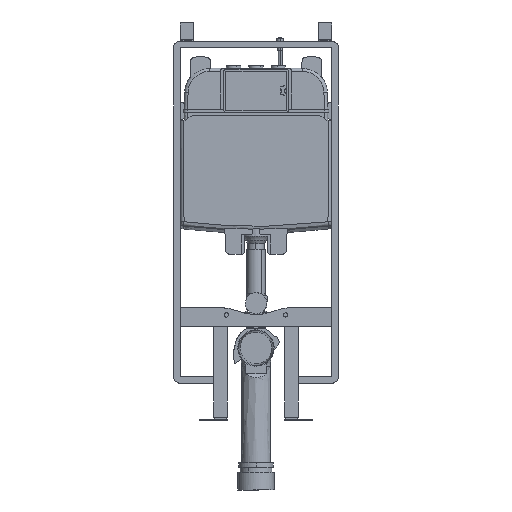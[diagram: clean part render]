
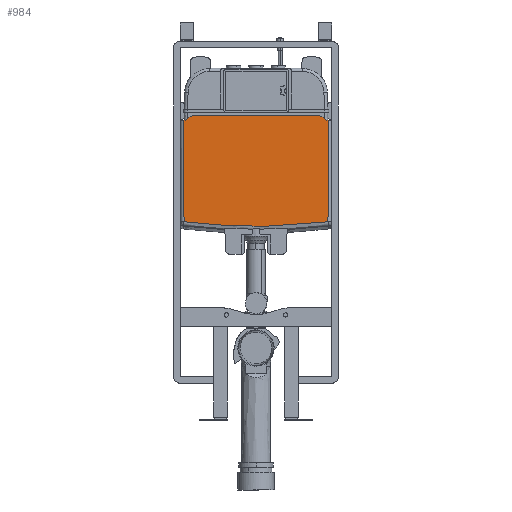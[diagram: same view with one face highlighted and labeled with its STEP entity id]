
A CAD part, front view. The second image highlights one B-rep face of the part: STEP entity #984.
In plain terms, the highlighted planar face has unit normal (0, -1, -0.003).
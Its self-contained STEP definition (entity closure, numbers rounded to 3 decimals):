
#106=(
BOUNDED_CURVE()
B_SPLINE_CURVE(1,(#13058,#13059),.UNSPECIFIED.,.F.,.F.)
B_SPLINE_CURVE_WITH_KNOTS((2,2),(0.,308.024),.UNSPECIFIED.)
CURVE()
GEOMETRIC_REPRESENTATION_ITEM()
RATIONAL_B_SPLINE_CURVE((1.,1.))
REPRESENTATION_ITEM('')
);
#109=(
BOUNDED_CURVE()
B_SPLINE_CURVE(1,(#13168,#13169),.UNSPECIFIED.,.F.,.F.)
B_SPLINE_CURVE_WITH_KNOTS((2,2),(0.,308.024),.UNSPECIFIED.)
CURVE()
GEOMETRIC_REPRESENTATION_ITEM()
RATIONAL_B_SPLINE_CURVE((1.,1.))
REPRESENTATION_ITEM('')
);
#984=ADVANCED_FACE('',(#1606),#9489,.T.);
#1606=FACE_OUTER_BOUND('',#2229,.T.);
#2229=EDGE_LOOP('',(#3410,#3411,#3412,#3413,#3414,#3415,#3416,#3417));
#3410=ORIENTED_EDGE('',*,*,#6148,.F.);
#3411=ORIENTED_EDGE('',*,*,#6150,.F.);
#3412=ORIENTED_EDGE('',*,*,#6167,.F.);
#3413=ORIENTED_EDGE('',*,*,#6174,.T.);
#3414=ORIENTED_EDGE('',*,*,#6175,.T.);
#3415=ORIENTED_EDGE('',*,*,#6176,.T.);
#3416=ORIENTED_EDGE('',*,*,#6177,.T.);
#3417=ORIENTED_EDGE('',*,*,#6178,.T.);
#6148=EDGE_CURVE('',#8577,#8579,#106,.T.);
#6150=EDGE_CURVE('',#8586,#8577,#7649,.T.);
#6167=EDGE_CURVE('',#8603,#8586,#109,.T.);
#6174=EDGE_CURVE('',#8603,#8604,#7668,.T.);
#6175=EDGE_CURVE('',#8604,#8605,#7669,.T.);
#6176=EDGE_CURVE('',#8605,#8606,#7670,.T.);
#6177=EDGE_CURVE('',#8606,#8607,#7671,.T.);
#6178=EDGE_CURVE('',#8607,#8579,#7672,.T.);
#7649=B_SPLINE_CURVE_WITH_KNOTS('',3,(#13070,#13071,#13072,#13073,#13074,
#13075,#13076,#13077,#13078,#13079,#13080,#13081,#13082,#13083,#13084,#13085,
#13086,#13087,#13088,#13089,#13090,#13091,#13092,#13093,#13094,#13095,#13096,
#13097,#13098,#13099),.UNSPECIFIED.,.F.,.F.,(4,2,2,2,2,2,2,2,2,2,2,2,2,
2,4),(0.871,2.508,5.409,8.305,
11.197,16.976,19.864,22.752,25.64,
28.528,34.307,37.199,40.095,42.996,
44.633),.UNSPECIFIED.);
#7668=B_SPLINE_CURVE_WITH_KNOTS('',1,(#13199,#13200),.UNSPECIFIED.,.F.,
 .F.,(2,2),(-5.914,0.),.UNSPECIFIED.);
#7669=B_SPLINE_CURVE_WITH_KNOTS('',1,(#13201,#13202),.UNSPECIFIED.,.F.,
 .F.,(2,2),(-24.412,0.),.UNSPECIFIED.);
#7670=B_SPLINE_CURVE_WITH_KNOTS('',1,(#13203,#13204),.UNSPECIFIED.,.F.,
 .F.,(2,2),(-387.39,0.),.UNSPECIFIED.);
#7671=B_SPLINE_CURVE_WITH_KNOTS('',1,(#13205,#13206),.UNSPECIFIED.,.F.,
 .F.,(2,2),(-24.412,0.),.UNSPECIFIED.);
#7672=B_SPLINE_CURVE_WITH_KNOTS('',1,(#13207,#13208),.UNSPECIFIED.,.F.,
 .F.,(2,2),(-5.914,0.),.UNSPECIFIED.);
#8577=VERTEX_POINT('',#12916);
#8579=VERTEX_POINT('',#12918);
#8586=VERTEX_POINT('',#12925);
#8603=VERTEX_POINT('',#12942);
#8604=VERTEX_POINT('',#12943);
#8605=VERTEX_POINT('',#12944);
#8606=VERTEX_POINT('',#12945);
#8607=VERTEX_POINT('',#12946);
#9489=PLANE('',#9974);
#9974=AXIS2_PLACEMENT_3D('',#12591,#10443,$);
#10443=DIRECTION('',(0.,-1.,-0.003));
#12591=CARTESIAN_POINT('',(8.607,1.325,3.721));
#12916=CARTESIAN_POINT('',(-8.617,1.324,4.277));
#12918=CARTESIAN_POINT('',(-8.637,1.287,16.404));
#12925=CARTESIAN_POINT('',(8.578,1.324,4.277));
#12942=CARTESIAN_POINT('',(8.597,1.287,16.404));
#12943=CARTESIAN_POINT('',(8.364,1.287,16.404));
#12944=CARTESIAN_POINT('',(7.606,1.285,16.994));
#12945=CARTESIAN_POINT('',(-7.645,1.285,16.994));
#12946=CARTESIAN_POINT('',(-8.404,1.287,16.404));
#13058=CARTESIAN_POINT('',(-8.617,1.324,4.277));
#13059=CARTESIAN_POINT('',(-8.637,1.287,16.404));
#13070=CARTESIAN_POINT('',(8.578,1.324,4.277));
#13071=CARTESIAN_POINT('',(8.364,1.324,4.256));
#13072=CARTESIAN_POINT('',(8.15,1.324,4.234));
#13073=CARTESIAN_POINT('',(7.557,1.324,4.176));
#13074=CARTESIAN_POINT('',(7.178,1.324,4.14));
#13075=CARTESIAN_POINT('',(6.42,1.324,4.069));
#13076=CARTESIAN_POINT('',(6.041,1.324,4.036));
#13077=CARTESIAN_POINT('',(5.283,1.324,3.972));
#13078=CARTESIAN_POINT('',(4.904,1.325,3.942));
#13079=CARTESIAN_POINT('',(3.769,1.325,3.858));
#13080=CARTESIAN_POINT('',(3.011,1.325,3.812));
#13081=CARTESIAN_POINT('',(1.875,1.325,3.764));
#13082=CARTESIAN_POINT('',(1.496,1.325,3.751));
#13083=CARTESIAN_POINT('',(0.738,1.325,3.735));
#13084=CARTESIAN_POINT('',(0.359,1.325,3.731));
#13085=CARTESIAN_POINT('',(-0.399,1.325,3.731));
#13086=CARTESIAN_POINT('',(-0.778,1.325,3.735));
#13087=CARTESIAN_POINT('',(-1.535,1.325,3.751));
#13088=CARTESIAN_POINT('',(-1.914,1.325,3.764));
#13089=CARTESIAN_POINT('',(-3.051,1.325,3.812));
#13090=CARTESIAN_POINT('',(-3.808,1.325,3.858));
#13091=CARTESIAN_POINT('',(-4.944,1.325,3.942));
#13092=CARTESIAN_POINT('',(-5.322,1.324,3.972));
#13093=CARTESIAN_POINT('',(-6.08,1.324,4.036));
#13094=CARTESIAN_POINT('',(-6.459,1.324,4.069));
#13095=CARTESIAN_POINT('',(-7.217,1.324,4.14));
#13096=CARTESIAN_POINT('',(-7.596,1.324,4.176));
#13097=CARTESIAN_POINT('',(-8.19,1.324,4.234));
#13098=CARTESIAN_POINT('',(-8.403,1.324,4.256));
#13099=CARTESIAN_POINT('',(-8.617,1.324,4.277));
#13168=CARTESIAN_POINT('',(8.597,1.287,16.404));
#13169=CARTESIAN_POINT('',(8.578,1.324,4.277));
#13199=CARTESIAN_POINT('',(8.597,1.287,16.404));
#13200=CARTESIAN_POINT('',(8.364,1.287,16.404));
#13201=CARTESIAN_POINT('',(8.364,1.287,16.404));
#13202=CARTESIAN_POINT('',(7.606,1.285,16.994));
#13203=CARTESIAN_POINT('',(7.606,1.285,16.994));
#13204=CARTESIAN_POINT('',(-7.645,1.285,16.994));
#13205=CARTESIAN_POINT('',(-7.645,1.285,16.994));
#13206=CARTESIAN_POINT('',(-8.404,1.287,16.404));
#13207=CARTESIAN_POINT('',(-8.404,1.287,16.404));
#13208=CARTESIAN_POINT('',(-8.637,1.287,16.404));
